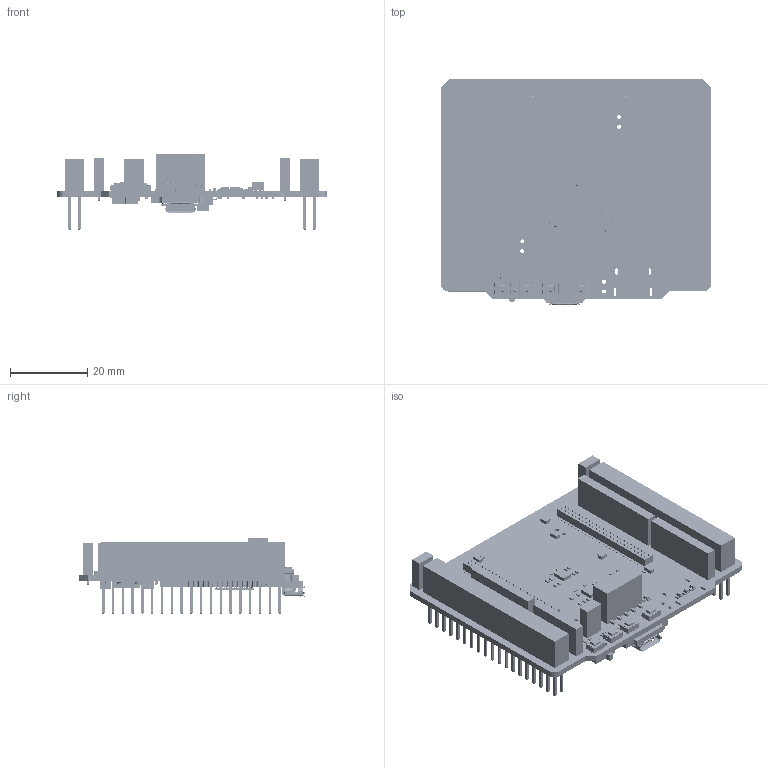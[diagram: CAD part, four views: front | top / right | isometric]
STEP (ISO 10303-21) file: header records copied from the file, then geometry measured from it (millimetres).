
FILE_DESCRIPTION(('Open CASCADE Model'),'2;1');
FILE_NAME('Open CASCADE Shape Model','2021-10-20T16:41:42',('Author'),( 'Open CASCADE'),'Open CASCADE STEP processor 6.8','Open CASCADE 6.8' ,'Unknown');
FILE_SCHEMA(('AUTOMOTIVE_DESIGN { 1 0 10303 214 1 1 1 1 }'));
Length unit declared in the file: millimetre
Products named in the file (241): PCB; Board; Open CASCADE STEP translator 6.8 3.1.1; M1; MOLEX_105017-0001; Open CASCADE STEP translator 6.8 3.2.1.1; Open CASCADE STEP translator 6.8 3.2.1.2; 6139872816; Extruded; 6139872736; 6139872656; 6139872576; 6139872496; 6140778336; 6140777936; Cylinder; 6140777696; 6140777296; Sphere; 6139876416; 6139875616; 6139875296; 6139875056; 6139874336; 6139873536; 6139873296; HW2; 6139465216; U7; User_Library-User_Library-DHVQFN_16-1; 6168098224; 6168097904; U6; U5; SOT23-5L; 6139464336; U4; DFN6-EPAD_3X3_P095; 6139872336; U3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
Assembly tree (687 placements, depth 4):
  PCB
    Board
      Open CASCADE STEP translator 6.8 3.1.1
    M1
      MOLEX_105017-0001
        Open CASCADE STEP translator 6.8 3.2.1.1
        Open CASCADE STEP translator 6.8 3.2.1.2
      6139872816
        Extruded
      6139872736
        Extruded
      6139872656  x16
        Extruded
      6139872576  x16
        Extruded
      6139872496
        Extruded
      6140778336
        Extruded
      6140777936
        Cylinder
      6140777696
        Extruded
      6140777296  x201
        Sphere
      6139876416  x4
        Extruded
      6139875616
        Extruded
      6139875296
        Extruded
      6139875056  x4
        Extruded
      6139874336  x4
        Extruded
      6139873536
        Extruded
      6139873296
        Extruded
    HW2
      6139465216
        Extruded
    U7
      User_Library-User_Library-DHVQFN_16-1
      6168098224
        Extruded
      6168097904
        Cylinder
    U6
      User_Library-User_Library-DHVQFN_16-1
      6168098224
        Extruded
      6168097904
        Cylinder
    U5
      SOT23-5L
      6139464336
        Extruded
    U4
      DFN6-EPAD_3X3_P095
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Bounding box: 70.1 x 58.62 x 19.81 mm (x, y, z)
Volume: 18051.6 mm3; surface area: 30844.9 mm2
Topology: 660 solids, 660 shells, 24321 faces, 59091 edges, 34426 vertices
Faces by surface type: plane 12008, cylinder 6204, bspline 2910, sphere 2578, torus 433, revolution 160, cone 28
Full cylindrical faces by diameter (mm): 0.2 x4, 0.4 x2, 0.5 x1, 0.9 x2, 1 x88, 1.1 x32
Entity records: 202414 total; most frequent: CARTESIAN_POINT 36062, ORIENTED_EDGE 27912, DIRECTION 26911, EDGE_CURVE 13956, LINE 12295, VECTOR 12295, VERTEX_POINT 8907, AXIS2_PLACEMENT_3D 7304
